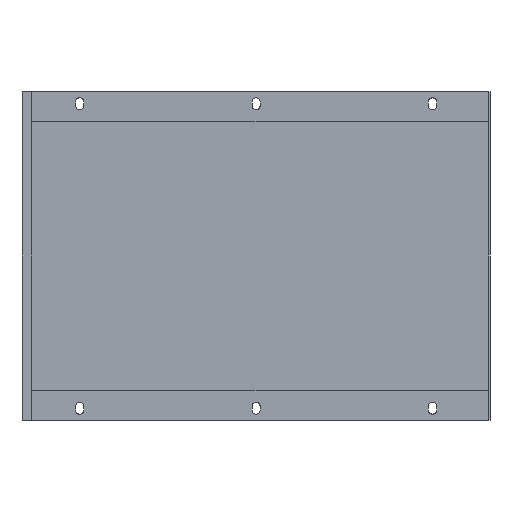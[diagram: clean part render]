
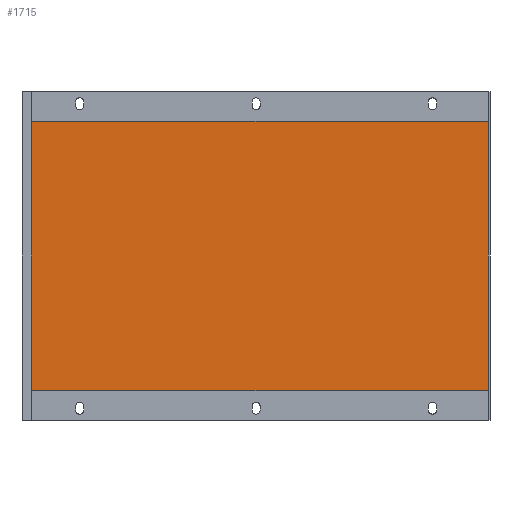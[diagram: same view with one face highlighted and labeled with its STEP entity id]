
A CAD part, front view. The second image highlights one B-rep face of the part: STEP entity #1715.
In plain terms, the highlighted planar face has unit normal (0, -1, 0).
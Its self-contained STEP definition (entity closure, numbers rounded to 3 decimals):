
#6 = CARTESIAN_POINT ( 'NONE',  ( -8., 61.1, 279. ) ) ;
#7 = VERTEX_POINT ( 'NONE', #442 ) ;
#36 = EDGE_CURVE ( 'NONE', #163, #274, #702, .T. ) ;
#75 = VECTOR ( 'NONE', #755, 1000. ) ;
#84 = LINE ( 'NONE', #1574, #868 ) ;
#138 = ORIENTED_EDGE ( 'NONE', *, *, #36, .F. ) ;
#163 = VERTEX_POINT ( 'NONE', #741 ) ;
#274 = VERTEX_POINT ( 'NONE', #1311 ) ;
#324 = CARTESIAN_POINT ( 'NONE',  ( 388.6, 61.1, 279. ) ) ;
#365 = VECTOR ( 'NONE', #693, 1000. ) ;
#384 = DIRECTION ( 'NONE',  ( 0., 0., -1. ) ) ;
#442 = CARTESIAN_POINT ( 'NONE',  ( -6.6, 61.1, 254. ) ) ;
#492 = LINE ( 'NONE', #1170, #75 ) ;
#555 = DIRECTION ( 'NONE',  ( 0., 1., 0. ) ) ;
#631 = DIRECTION ( 'NONE',  ( 1., 0., 0. ) ) ;
#637 = LINE ( 'NONE', #1603, #1759 ) ;
#640 = ORIENTED_EDGE ( 'NONE', *, *, #978, .T. ) ;
#693 = DIRECTION ( 'NONE',  ( 0., 0., -1. ) ) ;
#702 = LINE ( 'NONE', #324, #365 ) ;
#711 = DIRECTION ( 'NONE',  ( 0., 0., 1. ) ) ;
#741 = CARTESIAN_POINT ( 'NONE',  ( 388.6, 61.1, 254. ) ) ;
#755 = DIRECTION ( 'NONE',  ( -1., 0., 0. ) ) ;
#868 = VECTOR ( 'NONE', #631, 1000. ) ;
#916 = CARTESIAN_POINT ( 'NONE',  ( -6.6, 61.1, 25. ) ) ;
#947 = FACE_OUTER_BOUND ( 'NONE', #1108, .T. ) ;
#978 = EDGE_CURVE ( 'NONE', #163, #7, #492, .T. ) ;
#1015 = EDGE_CURVE ( 'NONE', #1076, #274, #84, .T. ) ;
#1072 = EDGE_CURVE ( 'NONE', #7, #1076, #637, .T. ) ;
#1076 = VERTEX_POINT ( 'NONE', #916 ) ;
#1108 = EDGE_LOOP ( 'NONE', ( #138, #640, #1663, #1576 ) ) ;
#1170 = CARTESIAN_POINT ( 'NONE',  ( 0., 61.1, 254. ) ) ;
#1311 = CARTESIAN_POINT ( 'NONE',  ( 388.6, 61.1, 25. ) ) ;
#1480 = AXIS2_PLACEMENT_3D ( 'NONE', #6, #555, #711 ) ;
#1492 = PLANE ( 'NONE',  #1480 ) ;
#1574 = CARTESIAN_POINT ( 'NONE',  ( 0., 61.1, 25. ) ) ;
#1576 = ORIENTED_EDGE ( 'NONE', *, *, #1015, .T. ) ;
#1603 = CARTESIAN_POINT ( 'NONE',  ( -6.6, 61.1, 279. ) ) ;
#1663 = ORIENTED_EDGE ( 'NONE', *, *, #1072, .T. ) ;
#1715 = ADVANCED_FACE ( 'NONE', ( #947 ), #1492, .F. ) ;
#1759 = VECTOR ( 'NONE', #384, 1000. ) ;
